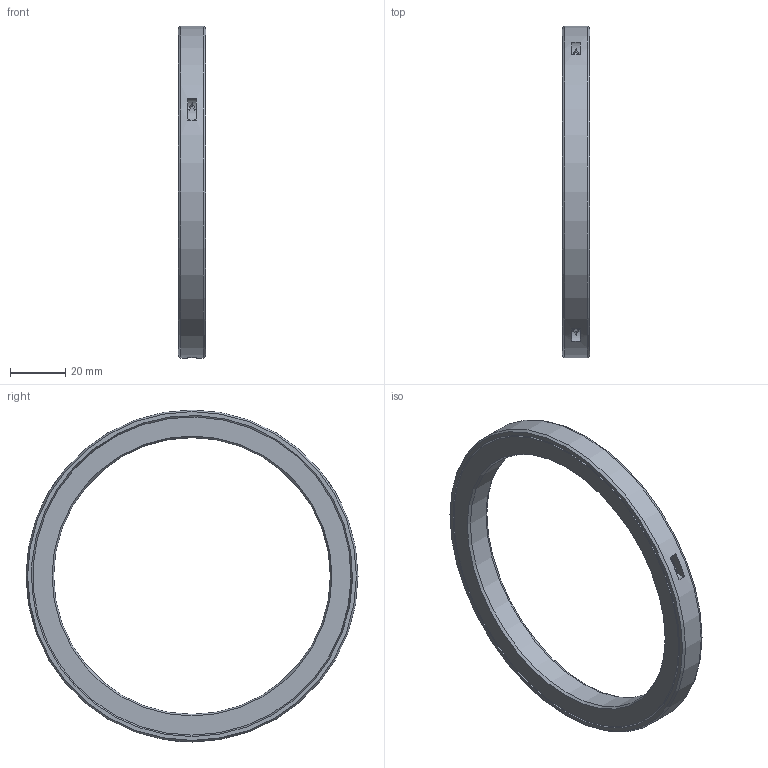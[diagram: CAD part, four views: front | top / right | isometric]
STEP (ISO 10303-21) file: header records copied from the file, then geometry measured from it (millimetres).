
FILE_DESCRIPTION(/* description */ (''),/* implementation_level */ '2;1');
FILE_NAME(/* name */ '301433 M 100x120x10.stp',/* time_stamp */ '2016-12-15T12:04:08+01:00',/* author */ (''),/* organization */ (''),/* preprocessor_version */ 'ST-DEVELOPER v15',/* originating_system */ 'SIEMENS PLM Software NX 8.5',/* authorisation */ '');
FILE_SCHEMA (('CONFIG_CONTROL_DESIGN'));
Length unit declared in the file: millimetre
Products named in the file (1): ATE0000124_01
Bounding box: 10 x 120 x 120 mm (x, y, z)
Volume: 31802.2 mm3; surface area: 21330.3 mm2
Topology: 2 solids, 2 shells, 49 faces, 143 edges, 94 vertices
Faces by surface type: cone 22, plane 16, cylinder 11
Full cylindrical faces by diameter (mm): 100 x1, 120 x1
Entity records: 1626 total; most frequent: CARTESIAN_POINT 396, ORIENTED_EDGE 240, DIRECTION 234, EDGE_CURVE 120, AXIS2_PLACEMENT_3D 114, VERTEX_POINT 84, CIRCLE 66, EDGE_LOOP 64
